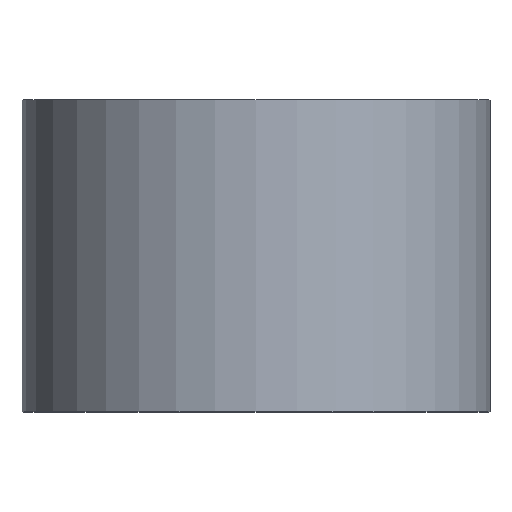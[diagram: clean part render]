
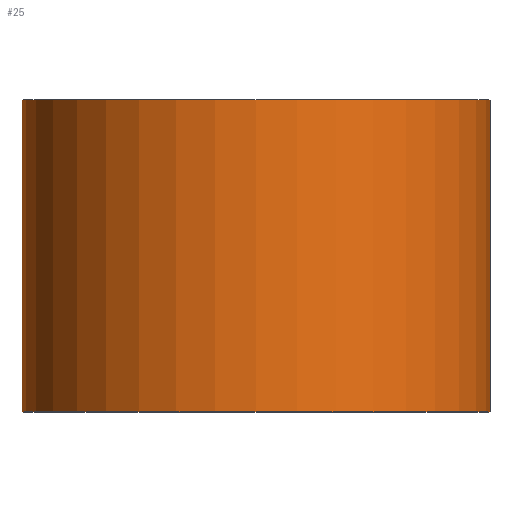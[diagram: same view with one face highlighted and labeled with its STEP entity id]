
A CAD part, top view. The second image highlights one B-rep face of the part: STEP entity #25.
In plain terms, the highlighted cylindrical face has radius 9 mm (diameter 18 mm), a partial arc.
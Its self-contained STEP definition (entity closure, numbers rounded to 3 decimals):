
#4 = CARTESIAN_POINT ( 'NONE',  ( -9., 0., 0. ) ) ;
#5 = CARTESIAN_POINT ( 'NONE',  ( -9., 12., 0. ) ) ;
#13 = CARTESIAN_POINT ( 'NONE',  ( 0., 12., 0. ) ) ;
#24 = ORIENTED_EDGE ( 'NONE', *, *, #165, .T. ) ;
#25 = ADVANCED_FACE ( 'NONE', ( #103 ), #180, .T. ) ;
#26 = VERTEX_POINT ( 'NONE', #176 ) ;
#27 = AXIS2_PLACEMENT_3D ( 'NONE', #263, #218, #62 ) ;
#32 = DIRECTION ( 'NONE',  ( -1., 0., 0. ) ) ;
#34 = DIRECTION ( 'NONE',  ( 0., 1., 0. ) ) ;
#47 = CIRCLE ( 'NONE', #27, 9. ) ;
#51 = AXIS2_PLACEMENT_3D ( 'NONE', #13, #34, #288 ) ;
#55 = AXIS2_PLACEMENT_3D ( 'NONE', #285, #75, #32 ) ;
#62 = DIRECTION ( 'NONE',  ( -1., 0., 0. ) ) ;
#73 = DIRECTION ( 'NONE',  ( 0., 1., 0. ) ) ;
#75 = DIRECTION ( 'NONE',  ( 0., 1., 0. ) ) ;
#82 = CARTESIAN_POINT ( 'NONE',  ( 9., 0., 0. ) ) ;
#103 = FACE_OUTER_BOUND ( 'NONE', #276, .T. ) ;
#104 = EDGE_CURVE ( 'NONE', #119, #145, #121, .T. ) ;
#119 = VERTEX_POINT ( 'NONE', #4 ) ;
#121 = LINE ( 'NONE', #239, #277 ) ;
#133 = VERTEX_POINT ( 'NONE', #177 ) ;
#136 = ORIENTED_EDGE ( 'NONE', *, *, #153, .F. ) ;
#145 = VERTEX_POINT ( 'NONE', #5 ) ;
#153 = EDGE_CURVE ( 'NONE', #145, #26, #231, .T. ) ;
#157 = VECTOR ( 'NONE', #247, 1000. ) ;
#165 = EDGE_CURVE ( 'NONE', #133, #26, #293, .T. ) ;
#176 = CARTESIAN_POINT ( 'NONE',  ( 9., 12., 0. ) ) ;
#177 = CARTESIAN_POINT ( 'NONE',  ( 9., 0., 0. ) ) ;
#180 = CYLINDRICAL_SURFACE ( 'NONE', #55, 9. ) ;
#212 = ORIENTED_EDGE ( 'NONE', *, *, #104, .F. ) ;
#218 = DIRECTION ( 'NONE',  ( 0., 1., 0. ) ) ;
#231 = CIRCLE ( 'NONE', #51, 9. ) ;
#232 = EDGE_CURVE ( 'NONE', #119, #133, #47, .T. ) ;
#239 = CARTESIAN_POINT ( 'NONE',  ( -9., 0., 0. ) ) ;
#247 = DIRECTION ( 'NONE',  ( 0., 1., 0. ) ) ;
#263 = CARTESIAN_POINT ( 'NONE',  ( 0., 0., 0. ) ) ;
#276 = EDGE_LOOP ( 'NONE', ( #279, #24, #136, #212 ) ) ;
#277 = VECTOR ( 'NONE', #73, 1000. ) ;
#279 = ORIENTED_EDGE ( 'NONE', *, *, #232, .T. ) ;
#285 = CARTESIAN_POINT ( 'NONE',  ( 0., 0., 0. ) ) ;
#288 = DIRECTION ( 'NONE',  ( -1., 0., 0. ) ) ;
#293 = LINE ( 'NONE', #82, #157 ) ;
